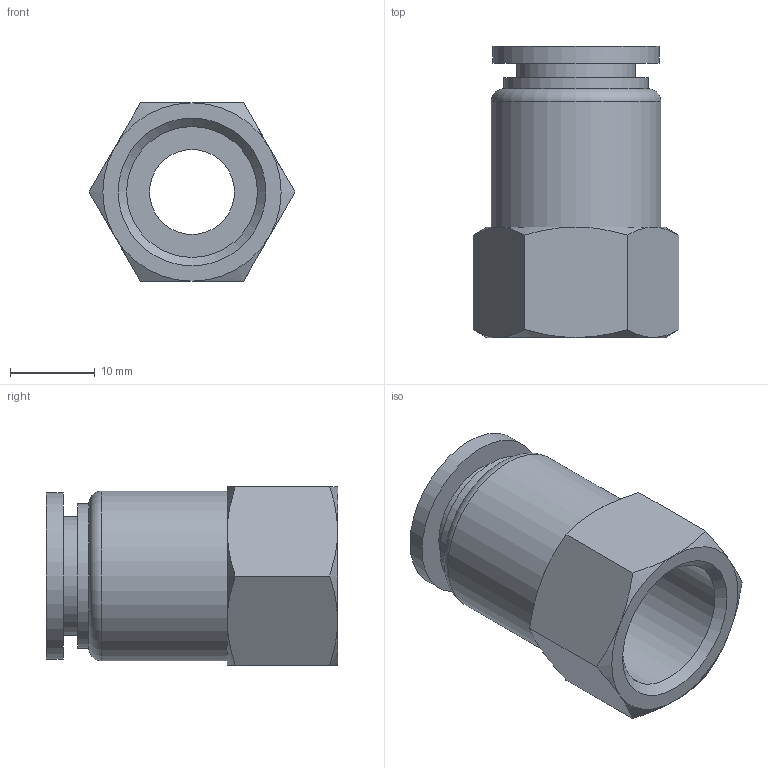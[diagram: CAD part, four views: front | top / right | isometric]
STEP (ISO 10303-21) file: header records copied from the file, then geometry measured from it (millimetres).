
FILE_DESCRIPTION(/* description */ (''),/* implementation_level */ '2;1');
FILE_NAME(/* name */ 'S:\_Tecnico\ArchivioUT\_Disegni3D ingombri\DISEGNI 3D per ingombri\RP\RP 52\RP523812.stp',/* time_stamp */ '2019-07-29T08:27:30+02:00',/* author */ ('ufficiotecnico3'),/* organization */ (''),/* preprocessor_version */ 'ST-DEVELOPER v18',/* originating_system */ 'Autodesk Inventor 2020',/* authorisation */ '');
FILE_SCHEMA (('AUTOMOTIVE_DESIGN { 1 0 10303 214 3 1 1 }'));
Length unit declared in the file: millimetre
Products named in the file (1): RP523812
Bounding box: 24.25 x 34.3 x 21 mm (x, y, z)
Volume: 6443.1 mm3; surface area: 4451.3 mm2
Topology: 1 solids, 1 shells, 34 faces, 82 edges, 55 vertices
Faces by surface type: cone 13, plane 13, cylinder 7, torus 1
Full cylindrical faces by diameter (mm): 10 x1, 12 x1, 14 x1, 15.395 x1, 17 x1, 19.6 x1, 20 x1
Entity records: 1039 total; most frequent: CARTESIAN_POINT 220, DIRECTION 172, ORIENTED_EDGE 164, EDGE_CURVE 82, AXIS2_PLACEMENT_3D 79, VERTEX_POINT 55, CIRCLE 44, EDGE_LOOP 41
